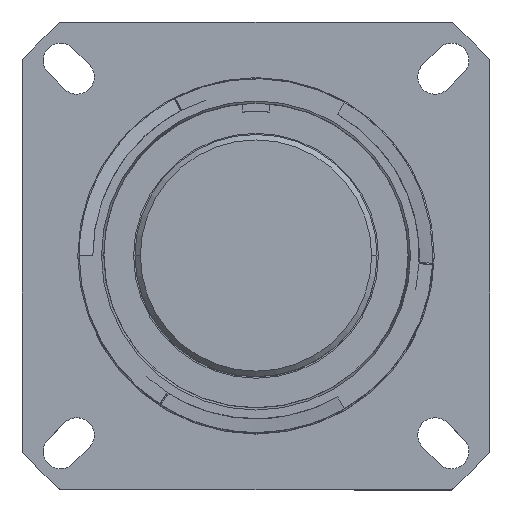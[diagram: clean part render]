
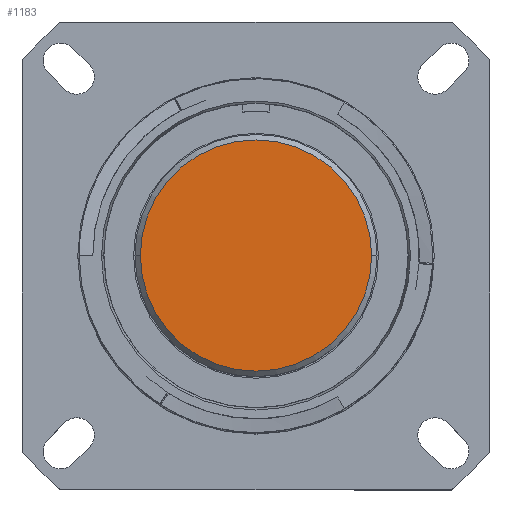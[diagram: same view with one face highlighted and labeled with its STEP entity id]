
A CAD part, top view. The second image highlights one B-rep face of the part: STEP entity #1183.
In plain terms, the highlighted planar face has unit normal (0, 0, 1).
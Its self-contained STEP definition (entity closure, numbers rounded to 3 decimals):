
#35 = ORIENTED_EDGE ( 'NONE', *, *, #5502, .T. ) ;
#1183 = ADVANCED_FACE ( 'NONE', ( #6433 ), #5716, .T. ) ;
#1596 = AXIS2_PLACEMENT_3D ( 'NONE', #2339, #3104, #6063 ) ;
#1620 = CIRCLE ( 'NONE', #3003, 10.795 ) ;
#2339 = CARTESIAN_POINT ( 'NONE',  ( 0., 0., -0.457 ) ) ;
#2920 = CARTESIAN_POINT ( 'NONE',  ( -10.795, 0., -0.457 ) ) ;
#3003 = AXIS2_PLACEMENT_3D ( 'NONE', #7652, #7695, #8235 ) ;
#3104 = DIRECTION ( 'NONE',  ( 0., 0., 1. ) ) ;
#4991 = DIRECTION ( 'NONE',  ( 0., 0., 1. ) ) ;
#5041 = DIRECTION ( 'NONE',  ( 1., 0., 0. ) ) ;
#5175 = ORIENTED_EDGE ( 'NONE', *, *, #8259, .T. ) ;
#5502 = EDGE_CURVE ( 'NONE', #7626, #7787, #9127, .T. ) ;
#5716 = PLANE ( 'NONE',  #7396 ) ;
#6063 = DIRECTION ( 'NONE',  ( 1., 0., 0. ) ) ;
#6433 = FACE_OUTER_BOUND ( 'NONE', #7116, .T. ) ;
#7116 = EDGE_LOOP ( 'NONE', ( #35, #5175 ) ) ;
#7396 = AXIS2_PLACEMENT_3D ( 'NONE', #8643, #4991, #5041 ) ;
#7626 = VERTEX_POINT ( 'NONE', #2920 ) ;
#7652 = CARTESIAN_POINT ( 'NONE',  ( 0., 0., -0.457 ) ) ;
#7695 = DIRECTION ( 'NONE',  ( 0., 0., 1. ) ) ;
#7787 = VERTEX_POINT ( 'NONE', #9133 ) ;
#8235 = DIRECTION ( 'NONE',  ( 1., 0., 0. ) ) ;
#8259 = EDGE_CURVE ( 'NONE', #7787, #7626, #1620, .T. ) ;
#8643 = CARTESIAN_POINT ( 'NONE',  ( 0., 0., -0.457 ) ) ;
#9127 = CIRCLE ( 'NONE', #1596, 10.795 ) ;
#9133 = CARTESIAN_POINT ( 'NONE',  ( 10.795, 0., -0.457 ) ) ;
